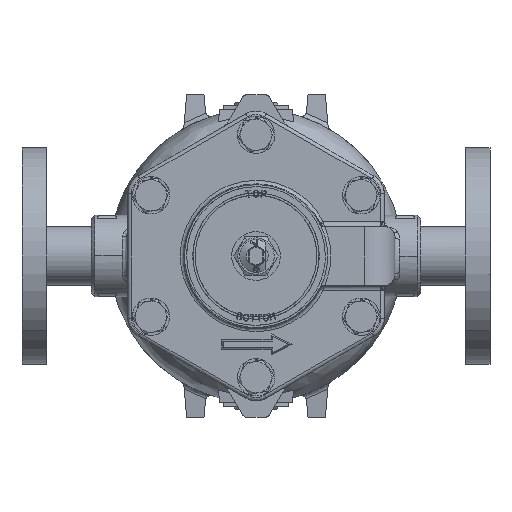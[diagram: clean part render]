
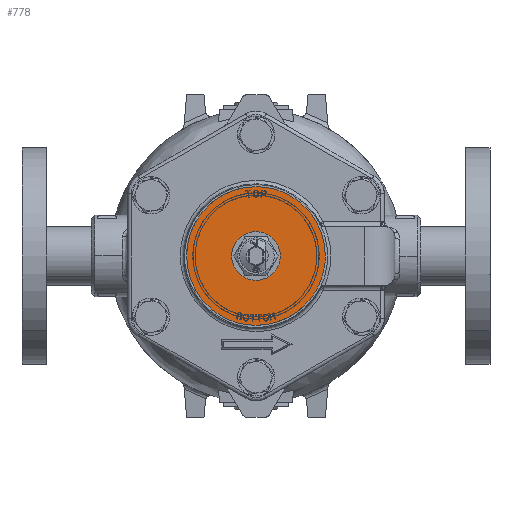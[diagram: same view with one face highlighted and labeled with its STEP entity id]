
A CAD part, front view. The second image highlights one B-rep face of the part: STEP entity #778.
In plain terms, the highlighted planar face has unit normal (0, -1, 0).
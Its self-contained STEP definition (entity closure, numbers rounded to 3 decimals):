
#778=ADVANCED_FACE('',(#3436,#3437),#3435,.F.);
#3435=PLANE('',#12862);
#3436=FACE_OUTER_BOUND('',#12863,.T.);
#3437=FACE_BOUND('',#12864,.T.);
#12859=CARTESIAN_POINT('',(-48.001,0.,-48.001));
#12860=DIRECTION('',(0.,1.,0.));
#12861=DIRECTION('',(0.,0.,1.));
#12862=AXIS2_PLACEMENT_3D('',#12859,#12860,#12861);
#12863=EDGE_LOOP('',(#26152,#26153,#26154,#26155,#26156,#26157,#26158,#26159));
#12864=EDGE_LOOP('',(#26160,#26161));
#26152=ORIENTED_EDGE('',*,*,#30995,.T.);
#26153=ORIENTED_EDGE('',*,*,#30996,.T.);
#26154=ORIENTED_EDGE('',*,*,#30997,.T.);
#26155=ORIENTED_EDGE('',*,*,#30998,.T.);
#26156=ORIENTED_EDGE('',*,*,#30999,.T.);
#26157=ORIENTED_EDGE('',*,*,#31000,.T.);
#26158=ORIENTED_EDGE('',*,*,#31001,.T.);
#26159=ORIENTED_EDGE('',*,*,#31002,.T.);
#26160=ORIENTED_EDGE('',*,*,#30992,.F.);
#26161=ORIENTED_EDGE('',*,*,#31003,.F.);
#30992=EDGE_CURVE('',#37876,#37877,#37878,.T.);
#30995=EDGE_CURVE('',#37896,#37897,#37898,.T.);
#30996=EDGE_CURVE('',#37897,#37904,#37905,.T.);
#30997=EDGE_CURVE('',#37904,#37911,#37912,.T.);
#30998=EDGE_CURVE('',#37911,#37918,#37919,.T.);
#30999=EDGE_CURVE('',#37918,#37925,#37926,.T.);
#31000=EDGE_CURVE('',#37925,#37932,#37933,.T.);
#31001=EDGE_CURVE('',#37932,#37939,#37940,.T.);
#31002=EDGE_CURVE('',#37939,#37896,#37946,.T.);
#31003=EDGE_CURVE('',#37877,#37876,#37952,.T.);
#37876=VERTEX_POINT('',#56025);
#37877=VERTEX_POINT('',#56026);
#37878=LINE('',#56027,#56028);
#37896=VERTEX_POINT('',#56036);
#37897=VERTEX_POINT('',#56037);
#37898=(BOUNDED_CURVE() B_SPLINE_CURVE(3,(#56038,#56039,#56040,#56041,#56042,#56043,#56044,#56045),.UNSPECIFIED.,.F.,.F.) B_SPLINE_CURVE_WITH_KNOTS((4,1,1,1,1,4),(0.,8.067,11.863,18.506,22.302,30.369),.UNSPECIFIED.) CURVE() GEOMETRIC_REPRESENTATION_ITEM() RATIONAL_B_SPLINE_CURVE((1.,1.,1.,1.,1.,1.,1.,1.)) REPRESENTATION_ITEM('') );
#37904=VERTEX_POINT('',#56046);
#37905=(BOUNDED_CURVE() B_SPLINE_CURVE(3,(#56047,#56048,#56049,#56050,#56051,#56052,#56053,#56054),.UNSPECIFIED.,.F.,.F.) B_SPLINE_CURVE_WITH_KNOTS((4,1,1,1,1,4),(0.,6.594,12.681,18.768,25.869,32.463),.UNSPECIFIED.) CURVE() GEOMETRIC_REPRESENTATION_ITEM() RATIONAL_B_SPLINE_CURVE((1.,1.,1.,1.,1.,1.,1.,1.)) REPRESENTATION_ITEM('') );
#37911=VERTEX_POINT('',#56055);
#37912=(BOUNDED_CURVE() B_SPLINE_CURVE(3,(#56056,#56057,#56058,#56059,#56060,#56061,#56062,#56063),.UNSPECIFIED.,.F.,.F.) B_SPLINE_CURVE_WITH_KNOTS((4,1,1,1,1,4),(0.,8.345,16.69,22.58,29.944,30.369),.UNSPECIFIED.) CURVE() GEOMETRIC_REPRESENTATION_ITEM() RATIONAL_B_SPLINE_CURVE((1.,1.,1.,1.,1.,1.,1.,1.)) REPRESENTATION_ITEM('') );
#37918=VERTEX_POINT('',#56064);
#37919=(BOUNDED_CURVE() B_SPLINE_CURVE(3,(#56065,#56066,#56067,#56068,#56069,#56070,#56071),.UNSPECIFIED.,.F.,.F.) B_SPLINE_CURVE_WITH_KNOTS((4,1,1,1,4),(30.369,39.761,45.652,52.524,62.832),.UNSPECIFIED.) CURVE() GEOMETRIC_REPRESENTATION_ITEM() RATIONAL_B_SPLINE_CURVE((1.,1.,1.,1.,1.,1.,1.)) REPRESENTATION_ITEM('') );
#37925=VERTEX_POINT('',#56072);
#37926=CIRCLE('',#56076,40.);
#37932=VERTEX_POINT('',#56077);
#37933=(BOUNDED_CURVE() B_SPLINE_CURVE(3,(#56078,#56079,#56080,#56081,#56082,#56083,#56084),.UNSPECIFIED.,.F.,.F.) B_SPLINE_CURVE_WITH_KNOTS((4,1,1,1,4),(0.,11.667,17.753,25.869,32.463),.UNSPECIFIED.) CURVE() GEOMETRIC_REPRESENTATION_ITEM() RATIONAL_B_SPLINE_CURVE((1.,1.,1.,1.,1.,1.,1.)) REPRESENTATION_ITEM('') );
#37939=VERTEX_POINT('',#56085);
#37940=(BOUNDED_CURVE() B_SPLINE_CURVE(3,(#56086,#56087,#56088,#56089,#56090,#56091,#56092),.UNSPECIFIED.,.F.,.F.) B_SPLINE_CURVE_WITH_KNOTS((4,1,1,1,4),(0.,8.345,14.726,22.58,30.369),.UNSPECIFIED.) CURVE() GEOMETRIC_REPRESENTATION_ITEM() RATIONAL_B_SPLINE_CURVE((1.,1.,1.,1.,1.,1.,1.)) REPRESENTATION_ITEM('') );
#37946=(BOUNDED_CURVE() B_SPLINE_CURVE(3,(#56093,#56094,#56095,#56096,#56097,#56098,#56099,#56100),.UNSPECIFIED.,.F.,.F.) B_SPLINE_CURVE_WITH_KNOTS((4,1,1,1,1,4),(30.369,31.907,37.797,46.633,52.524,62.832),.UNSPECIFIED.) CURVE() GEOMETRIC_REPRESENTATION_ITEM() RATIONAL_B_SPLINE_CURVE((1.,1.,1.,1.,1.,1.,1.,1.)) REPRESENTATION_ITEM('') );
#37952=CIRCLE('',#56104,7.5);
#56025=CARTESIAN_POINT('',(5.6,0.,-4.989));
#56026=CARTESIAN_POINT('',(5.6,0.,4.989));
#56027=CARTESIAN_POINT('',(5.6,0.,-4.989));
#56028=VECTOR('',#56029,9.978);
#56029=DIRECTION('',(0.,0.,1.));
#56036=CARTESIAN_POINT('',(0.,0.,40.));
#56037=CARTESIAN_POINT('',(-27.534,0.,29.015));
#56038=CARTESIAN_POINT('',(0.,0.,40.));
#56039=CARTESIAN_POINT('',(-2.689,0.,40.));
#56040=CARTESIAN_POINT('',(-6.643,0.,39.6));
#56041=CARTESIAN_POINT('',(-12.628,0.,38.077));
#56042=CARTESIAN_POINT('',(-17.051,0.,36.313));
#56043=CARTESIAN_POINT('',(-22.44,0.,33.297));
#56044=CARTESIAN_POINT('',(-25.584,0.,30.866));
#56045=CARTESIAN_POINT('',(-27.534,0.,29.015));
#56046=CARTESIAN_POINT('',(-40.,0.,0.));
#56047=CARTESIAN_POINT('',(-27.534,0.,29.015));
#56048=CARTESIAN_POINT('',(-29.129,0.,27.502));
#56049=CARTESIAN_POINT('',(-31.954,0.,24.339));
#56050=CARTESIAN_POINT('',(-35.343,0.,19.059));
#56051=CARTESIAN_POINT('',(-37.962,0.,13.171));
#56052=CARTESIAN_POINT('',(-39.623,0.,6.763));
#56053=CARTESIAN_POINT('',(-40.,0.,2.198));
#56054=CARTESIAN_POINT('',(-40.,0.,0.));
#56055=CARTESIAN_POINT('',(-29.015,0.,-27.534));
#56056=CARTESIAN_POINT('',(-40.,0.,0.));
#56057=CARTESIAN_POINT('',(-40.,0.,-2.782));
#56058=CARTESIAN_POINT('',(-39.417,0.,-8.345));
#56059=CARTESIAN_POINT('',(-37.088,0.,-15.545));
#56060=CARTESIAN_POINT('',(-33.685,0.,-21.912));
#56061=CARTESIAN_POINT('',(-30.89,0.,-25.539));
#56062=CARTESIAN_POINT('',(-29.113,0.,-27.431));
#56063=CARTESIAN_POINT('',(-29.015,0.,-27.534));
#56064=CARTESIAN_POINT('',(0.,0.,-40.));
#56065=CARTESIAN_POINT('',(-29.015,0.,-27.534));
#56066=CARTESIAN_POINT('',(-26.86,0.,-29.805));
#56067=CARTESIAN_POINT('',(-22.918,0.,-33.087));
#56068=CARTESIAN_POINT('',(-16.43,0.,-36.657));
#56069=CARTESIAN_POINT('',(-9.163,0.,-39.257));
#56070=CARTESIAN_POINT('',(-3.436,0.,-40.001));
#56071=CARTESIAN_POINT('',(0.,0.,-40.));
#56072=CARTESIAN_POINT('',(27.534,0.,-29.015));
#56073=CARTESIAN_POINT('',(0.,0.,0.));
#56074=DIRECTION('',(0.,-1.,0.));
#56075=DIRECTION('',(0.,0.,1.));
#56076=AXIS2_PLACEMENT_3D('',#56073,#56074,#56075);
#56077=CARTESIAN_POINT('',(40.,0.,0.));
#56078=CARTESIAN_POINT('',(27.534,0.,-29.015));
#56079=CARTESIAN_POINT('',(30.356,0.,-26.339));
#56080=CARTESIAN_POINT('',(34.048,0.,-21.634));
#56081=CARTESIAN_POINT('',(37.761,0.,-13.824));
#56082=CARTESIAN_POINT('',(39.595,0.,-7.101));
#56083=CARTESIAN_POINT('',(40.,0.,-2.198));
#56084=CARTESIAN_POINT('',(40.,0.,0.));
#56085=CARTESIAN_POINT('',(29.015,0.,27.534));
#56086=CARTESIAN_POINT('',(40.,0.,0.));
#56087=CARTESIAN_POINT('',(40.,0.,2.782));
#56088=CARTESIAN_POINT('',(39.486,0.,7.69));
#56089=CARTESIAN_POINT('',(37.338,0.,14.929));
#56090=CARTESIAN_POINT('',(34.022,0.,21.519));
#56091=CARTESIAN_POINT('',(30.802,0.,25.651));
#56092=CARTESIAN_POINT('',(29.015,0.,27.534));
#56093=CARTESIAN_POINT('',(29.015,0.,27.534));
#56094=CARTESIAN_POINT('',(28.662,0.,27.906));
#56095=CARTESIAN_POINT('',(26.923,0.,29.67));
#56096=CARTESIAN_POINT('',(22.764,0.,33.17));
#56097=CARTESIAN_POINT('',(16.748,0.,36.578));
#56098=CARTESIAN_POINT('',(8.835,0.,39.3));
#56099=CARTESIAN_POINT('',(3.436,0.,40.001));
#56100=CARTESIAN_POINT('',(0.,0.,40.));
#56101=CARTESIAN_POINT('',(0.,0.,0.));
#56102=DIRECTION('',(0.,-1.,0.));
#56103=DIRECTION('',(1.,0.,0.));
#56104=AXIS2_PLACEMENT_3D('',#56101,#56102,#56103);
